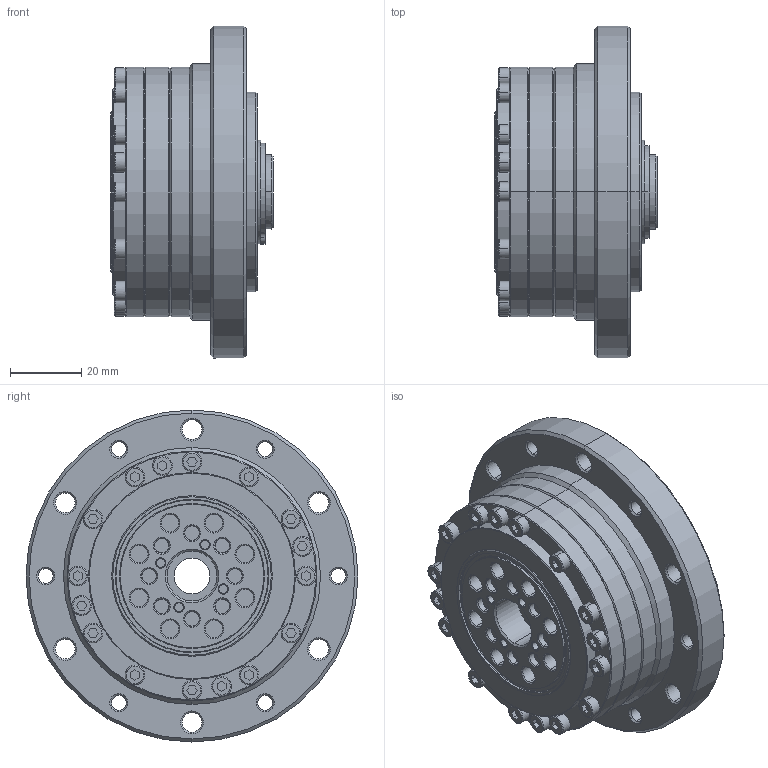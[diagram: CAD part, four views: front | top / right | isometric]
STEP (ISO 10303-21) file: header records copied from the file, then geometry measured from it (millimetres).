
FILE_DESCRIPTION(('STEP AP214'),'1');
FILE_NAME('cctmp_EA21F16B-F60A-4220-B042-FD76F6F7AEB8_2025_03_06_11_17_26_0230_43836..stp','2025-03-06T10:17:26',('HIWIN GmbH'),('CADClick - www.CADClick.com'),'Spatial InterOp 3D',' ','unknown authorization');
FILE_SCHEMA(('AUTOMOTIVE_DESIGN'));
Length unit declared in the file: millimetre
Products named in the file (2): DSC-20-XX-PO_FILE; 2025_03_06_11_17_26_0214
Assembly tree (1 placements, depth 2):
  DSC-20-XX-PO_FILE
    2025_03_06_11_17_26_0214
Bounding box: 45.5 x 93 x 93 mm (x, y, z)
Volume: 167183.8 mm3; surface area: 32004.1 mm2
Topology: 1 solids, 1 shells, 538 faces, 1317 edges, 836 vertices
Faces by surface type: plane 201, cylinder 153, cone 146, torus 38
Entity records: 20726 total; most frequent: CARTESIAN_POINT 3068, DIRECTION 3053, ORIENTED_EDGE 2634, EDGE_CURVE 1317, AXIS2_PLACEMENT_3D 1222, VERTEX_POINT 836, CIRCLE 682, EDGE_LOOP 619
